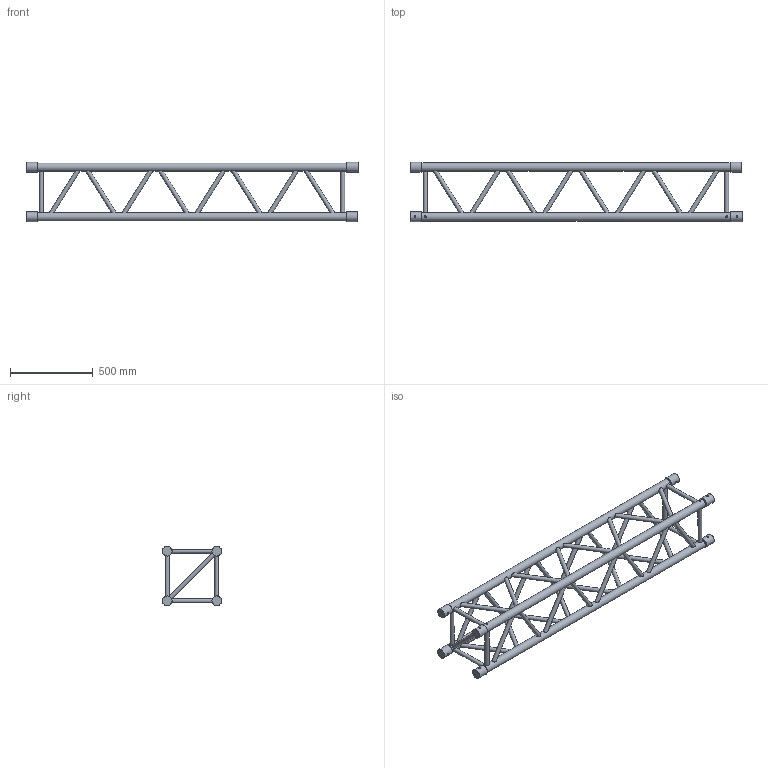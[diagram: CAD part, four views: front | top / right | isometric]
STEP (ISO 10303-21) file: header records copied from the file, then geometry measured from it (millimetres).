
FILE_DESCRIPTION(/* description */ (''),/* implementation_level */ '2;1');
FILE_NAME(/* name */ 'C:\Users\adrian.toca\Desktop\111110067.stp',/* time_stamp */ '2016-09-09T14:28:27+03:00',/* author */ ('adrian.toca'),/* organization */ (''),/* preprocessor_version */ 'ST-DEVELOPER v15.6',/* originating_system */ 'Autodesk Inventor 2015',/* authorisation */ '');
FILE_SCHEMA (('AUTOMOTIVE_DESIGN { 1 0 10303 214 3 1 1 }'));
Length unit declared in the file: millimetre
Products named in the file (1): 260030883
Bounding box: 2000 x 357.8 x 357.8 mm (x, y, z)
Volume: 11695224.7 mm3; surface area: 2269557.9 mm2
Topology: 3 solids, 6 shells, 198 faces, 524 edges, 336 vertices
Faces by surface type: cylinder 118, plane 72, cone 8
Full cylindrical faces by diameter (mm): 10 x8, 25 x42, 50 x4, 58.8 x8
Entity records: 8678 total; most frequent: CARTESIAN_POINT 4745, ORIENTED_EDGE 680, DIRECTION 676, EDGE_LOOP 368, AXIS2_PLACEMENT_3D 319, EDGE_CURVE 314, VERTEX_POINT 236, FACE_BOUND 194
